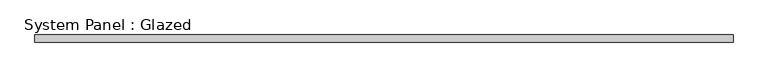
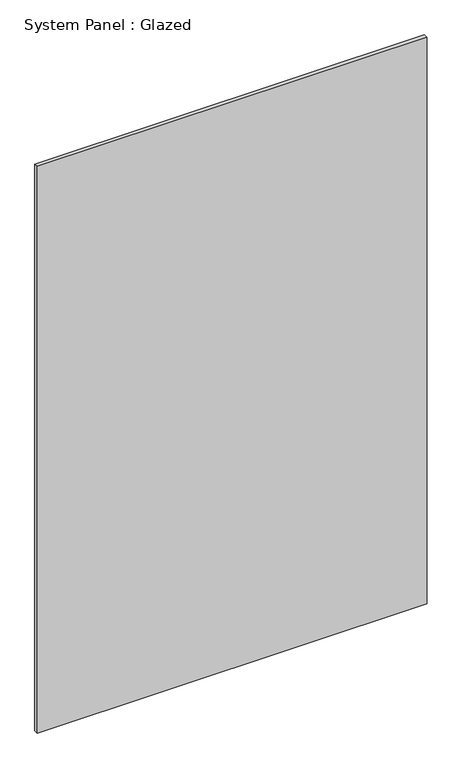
"""IFC4 building model written with IfcOpenShell, lengths in millimetres: plate geometry, System Panel : Glazed."""

import ifcopenshell
import ifcopenshell.guid

model = None  # the IFC model being written
_history = None  # IfcOwnerHistory: only IFC2X3 demands one
_inside = {}  # id of a spatial element -> (the spatial element, [elements in it])
_under = {}  # id of a project, library or spatial element -> (it, [spatial elements below it])
_declared = {}  # id of a project -> (the project, [libraries it declares])
_typed = {}  # id of a type object -> (the type object, [elements of that type])
_made_of = {}  # id of a material, layer set ... -> (it, [elements and type objects made of it])


def new_model(schema):
    """Start an empty IFC model of exactly this schema.

    Asked for "IFC4X3", IfcOpenShell would pick the latest addendum, in which some entities
    have other attributes; the version numbers below select the first issue.
    IFC2X3 requires an IfcOwnerHistory on every rooted entity: one is made here for all.
    """
    global model, _history
    if schema == "IFC4X3":
        model = ifcopenshell.file(schema_version=(4, 3, 0, 0))
    else:
        model = ifcopenshell.file(schema=schema)
    _inside.clear()
    _under.clear()
    _declared.clear()
    _typed.clear()
    _made_of.clear()
    _history = None
    if model.schema == "IFC2X3":
        org = make("IfcOrganization", Name="unknown")
        user = make(
            "IfcPersonAndOrganization",
            ThePerson=make("IfcPerson", FamilyName="unknown"),
            TheOrganization=org,
        )
        app = make(
            "IfcApplication",
            ApplicationDeveloper=org,
            Version="unknown",
            ApplicationFullName="unknown",
            ApplicationIdentifier="unknown",
        )
        _history = make(
            "IfcOwnerHistory",
            OwningUser=user,
            OwningApplication=app,
            ChangeAction="ADDED",
            CreationDate=0,
        )
    return model


def make(cls, **values):
    """One entity of the class cls with the attributes given. An attribute that is None is left unset."""
    return model.create_entity(
        cls, **{name: value for name, value in values.items() if value is not None}
    )


def rooted(cls, **values):
    """An entity with a GlobalId (a new one), such as an element, a storey or a relation."""
    return make(cls, GlobalId=ifcopenshell.guid.new(), OwnerHistory=_history, **values)


def si_unit(unit_type, name, prefix=None):
    """IfcSIUnit, for example si_unit("LENGTHUNIT", "METRE", prefix="MILLI")."""
    return make("IfcSIUnit", UnitType=unit_type, Prefix=prefix, Name=name)


def assignment(units):
    """IfcUnitAssignment: the units of a project."""
    return None if units is None else make("IfcUnitAssignment", Units=units)


def point(xyz):
    """IfcCartesianPoint."""
    return None if xyz is None else make("IfcCartesianPoint", Coordinates=xyz)


def direction(xyz):
    """IfcDirection."""
    return None if xyz is None else make("IfcDirection", DirectionRatios=xyz)


def frame(location, z_axis=None, x_axis=None):
    """IfcAxis2Placement3D, a coordinate frame: its origin and axes. An axis left out is left unset."""
    return make(
        "IfcAxis2Placement3D",
        Location=point(location),
        Axis=direction(z_axis),
        RefDirection=direction(x_axis),
    )


def origin():
    """The frame at (0, 0, 0) with its axes left unset."""
    return frame((0.0, 0.0, 0.0))


def origin_with_axes():
    """The frame at (0, 0, 0) with the z axis (0, 0, 1) and the x axis (1, 0, 0) written out."""
    return frame((0.0, 0.0, 0.0), z_axis=(0.0, 0.0, 1.0), x_axis=(1.0, 0.0, 0.0))


def place(relative_to, where):
    """IfcLocalPlacement: puts the frame where relative to a parent placement (None: the world)."""
    return make(
        "IfcLocalPlacement", PlacementRelTo=relative_to, RelativePlacement=where
    )


def context(
    kind, dimensions, precision=None, world=None, true_north=None, identifier=None
):
    """IfcGeometricRepresentationContext, for example the 3D "Model" context."""
    return make(
        "IfcGeometricRepresentationContext",
        ContextIdentifier=identifier,
        ContextType=kind,
        CoordinateSpaceDimension=dimensions,
        Precision=precision,
        WorldCoordinateSystem=world,
        TrueNorth=true_north,
    )


def project(units=None, contexts=None):
    """IfcProject with its units and contexts."""
    return rooted(
        "IfcProject",
        Name="project",
        RepresentationContexts=contexts,
        UnitsInContext=assignment(units),
    )


def spatial(cls, under=None, at=None, **own):
    """A site, building, storey or space (cls), placed at a placement, below another one or the project."""
    s = rooted(cls, ObjectPlacement=at, **own)
    if under is not None:
        _under.setdefault(under.id(), (under, []))[1].append(s)
    return s


def polyline(points):
    """IfcPolyline through the points."""
    return make("IfcPolyline", Points=[point(p) for p in points])


def outline(outer, holes=None, kind="AREA"):
    """IfcArbitraryClosedProfileDef: a profile drawn as a closed curve; with holes, ...WithVoids."""
    if holes is None:
        return make("IfcArbitraryClosedProfileDef", ProfileType=kind, OuterCurve=outer)
    return make(
        "IfcArbitraryProfileDefWithVoids",
        ProfileType=kind,
        OuterCurve=outer,
        InnerCurves=holes,
    )


def extrude(swept, where, along, depth):
    """IfcExtrudedAreaSolid: the profile swept, set in the frame where, extruded along a direction by depth."""
    return make(
        "IfcExtrudedAreaSolid",
        SweptArea=swept,
        Position=where,
        ExtrudedDirection=direction(along),
        Depth=depth,
    )


def shape(context_of_items, identifier, shape_type, items):
    """IfcShapeRepresentation: the items that make up one representation, for example the "Body"."""
    return make(
        "IfcShapeRepresentation",
        ContextOfItems=context_of_items,
        RepresentationIdentifier=identifier,
        RepresentationType=shape_type,
        Items=items,
    )


def source(mapping_origin, context_of_items, identifier, shape_type, items):
    """IfcRepresentationMap: a shape defined once, which mapped items show again and again."""
    return make(
        "IfcRepresentationMap",
        MappingOrigin=mapping_origin,
        MappedRepresentation=shape(context_of_items, identifier, shape_type, items),
    )


def transform(
    local_origin,
    x_axis=None,
    y_axis=None,
    z_axis=None,
    scale=None,
    scale2=None,
    scale3=None,
    uniform=True,
):
    """IfcCartesianTransformationOperator3D, or its non-uniform kind. x_axis, y_axis, z_axis: its Axis1, 2, 3."""
    if uniform:
        return make(
            "IfcCartesianTransformationOperator3D",
            Axis1=direction(x_axis),
            Axis2=direction(y_axis),
            LocalOrigin=point(local_origin),
            Scale=scale,
            Axis3=direction(z_axis),
        )
    return make(
        "IfcCartesianTransformationOperator3DnonUniform",
        Axis1=direction(x_axis),
        Axis2=direction(y_axis),
        LocalOrigin=point(local_origin),
        Scale=scale,
        Axis3=direction(z_axis),
        Scale2=scale2,
        Scale3=scale3,
    )


def mapped(mapping_source, mapping_target):
    """IfcMappedItem: shows the shape of a source again, moved by a transform."""
    return make(
        "IfcMappedItem", MappingSource=mapping_source, MappingTarget=mapping_target
    )


def made_of(thing, what):
    """Note that an element or type object is made of a material, layer set ...; save() writes the relation."""
    if what is not None:
        _made_of.setdefault(what.id(), (what, []))[1].append(thing)
    return thing


def element(
    cls,
    number,
    at=None,
    inside=None,
    cuts=None,
    type_object=None,
    material=None,
    context=None,
    identifier="Body",
    shape_type=None,
    held_by="IfcProductDefinitionShape",
    body=None,
    shapes=None,
    **own,
):
    """One element of the class cls, such as IfcWall. Its Tag is "e" and its number.

    at: its placement. inside: the storey or other place that contains it. cuts: it is an
    opening in that element (IfcRelVoidsElement). A single representation is given by context,
    identifier, shape_type and body (its items); several are given by shapes. held_by: the class
    of the entity that holds the representations. save() writes the other relations.
    """
    e = rooted(cls, Tag="e%d" % number, ObjectPlacement=at, **own)
    if body is not None:
        shapes = [shape(context, identifier, shape_type, body)]
    if shapes is not None:
        e.Representation = make(held_by, Representations=shapes)
    if inside is not None:
        _inside.setdefault(inside.id(), (inside, []))[1].append(e)
    if cuts is not None:
        rooted(
            "IfcRelVoidsElement", RelatingBuildingElement=cuts, RelatedOpeningElement=e
        )
    if type_object is not None:
        _typed.setdefault(type_object.id(), (type_object, []))[1].append(e)
    return made_of(e, material)


def aggregate(whole, parts):
    """IfcRelAggregates: a whole, such as a stair, and the parts it consists of."""
    return rooted("IfcRelAggregates", RelatingObject=whole, RelatedObjects=parts)


def save(model, path):
    """Write the relations noted so far, then the file.

    IfcRelAggregates (storeys below a building ...), IfcRelContainedInSpatialStructure (elements
    in a storey), IfcRelDefinesByType, IfcRelAssociatesMaterial and IfcRelDeclares: one each for
    every whole, place, type object, material and project.
    """
    for whole, parts in _under.values():
        aggregate(whole, parts)
    for where, things in _inside.values():
        rooted(
            "IfcRelContainedInSpatialStructure",
            RelatedElements=things,
            RelatingStructure=where,
        )
    for kind, things in _typed.values():
        rooted("IfcRelDefinesByType", RelatedObjects=things, RelatingType=kind)
    for what, things in _made_of.values():
        rooted("IfcRelAssociatesMaterial", RelatedObjects=things, RelatingMaterial=what)
    for by, libraries in _declared.values():
        rooted("IfcRelDeclares", RelatingContext=by, RelatedDefinitions=libraries)
    model.write(path)


def system_panel_glazed_949c9f91(model_context):
    return source(origin(), model_context, "Body", "SweptSolid", [
        extrude(outline(polyline([(1169.6253472, 19.05), (-1169.6253472, 19.05), (-1169.6253472, 44.45), (1169.6253472, 44.45), (1169.6253472, 19.05)])), origin_with_axes(), (0.0, 0.0, 1.0), 3594.1),
    ])


if __name__ == "__main__":
    model = new_model("IFC4")
    model_context = context("Model", 3, world=origin())
    ifc_project = project(units=[si_unit("LENGTHUNIT", "METRE", prefix="MILLI")], contexts=[model_context])
    site = spatial("IfcSite", under=ifc_project)
    building = spatial("IfcBuilding", under=site)
    placement = place(None, origin())
    system_panel_glazed_shape = system_panel_glazed_949c9f91(model_context)
    element("IfcPlate", 1, ObjectType="System Panel : Glazed", at=placement, inside=building, context=model_context, shape_type="MappedRepresentation", body=[
        mapped(system_panel_glazed_shape, transform((0.0, 0.0, 0.0), x_axis=(1.0, 0.0, 0.0), y_axis=(0.0, 1.0, 0.0), z_axis=(0.0, 0.0, 1.0))),
    ])
    save(model, "model.ifc")
